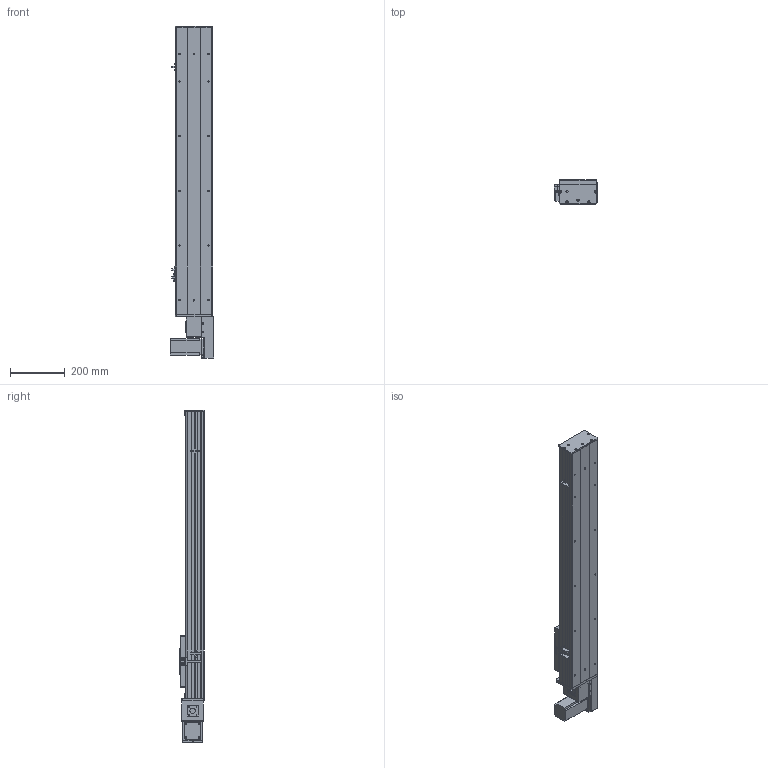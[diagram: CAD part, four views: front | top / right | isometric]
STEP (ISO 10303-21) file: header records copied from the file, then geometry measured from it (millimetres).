
FILE_DESCRIPTION (( 'STEP AP203' ), '1' );
FILE_NAME ('Y135CB-D90-S750-BL-P400W.STEP', '2020-02-17T08:34:29', ( '微软用户' ), ( '微软中国' ), 'SwSTEP 2.0', 'SolidWorks 2017', '' );
FILE_SCHEMA (( 'CONFIG_CONTROL_DESIGN' ));
Length unit declared in the file: millimetre
Products named in the file (18): 0B-萇儂楊擘啣; Y135CB-耜裔; Y135CB-D90-S750-BL-P400W; san松下电机400不带刹车----; 135CB---遴掛极.-; 5CB --掛极耜裔啣-; 35CB---喘謫眊楊擘啣; C-詩湍揤踡え-陔; Y10B--々湍喘謫眊--666; 135CB--詩湍-CE; Y10B-耜蚾蟀諉啣----; Y100-135俋离換覜ん--; Y俋欶BR----; Y135C-陔俋离換覜結え-; 0B-埴倛裔啣; 5C--俋欶; 0B-源倛裔啣; C-雄赽釱--
Assembly tree (21 placements, depth 2):
  Y135CB-D90-S750-BL-P400W
    Y135CB-耜裔
    135CB---遴掛极.-
    35CB---喘謫眊楊擘啣
    Y10B--々湍喘謫眊--666
    Y10B-耜蚾蟀諉啣----
    Y俋欶BR----
    0B-埴倛裔啣
    0B-源倛裔啣
    0B-萇儂楊擘啣
    san松下电机400不带刹车----
    5CB --掛极耜裔啣-  x2
    C-詩湍揤踡え-陔  x2
    135CB--詩湍-CE
    Y100-135俋离換覜ん--  x3
    Y135C-陔俋离換覜結え-
    5C--俋欶
    C-雄赽釱--
Bounding box: 157.5 x 91 x 1214.5 mm (x, y, z)
Volume: 3738017.6 mm3; surface area: 1456720.8 mm2
Topology: 21 solids, 21 shells, 941 faces, 2509 edges, 1662 vertices
Faces by surface type: cylinder 467, plane 458, cone 16
Entity records: 29139 total; most frequent: DIRECTION 4837, CARTESIAN_POINT 4768, ORIENTED_EDGE 4494, EDGE_CURVE 2247, AXIS2_PLACEMENT_3D 1759, VERTEX_POINT 1490, LINE 1319, VECTOR 1319
